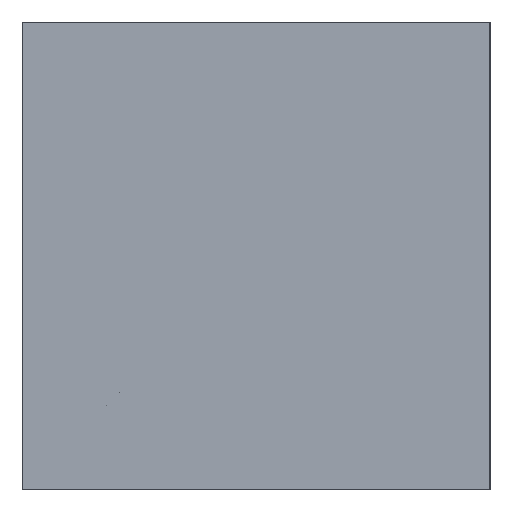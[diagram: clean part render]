
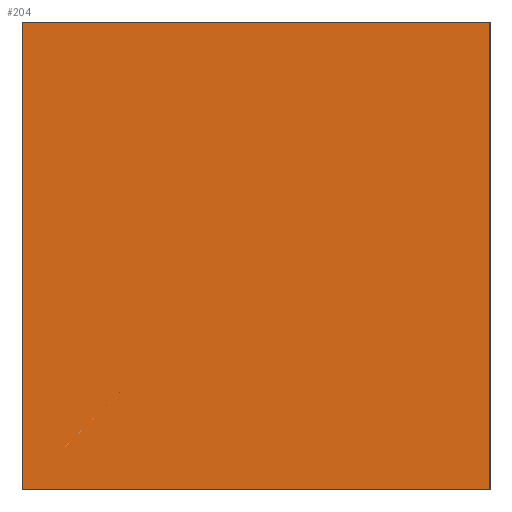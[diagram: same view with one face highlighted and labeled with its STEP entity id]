
A CAD part, left-side view. The second image highlights one B-rep face of the part: STEP entity #204.
In plain terms, the highlighted planar face has unit normal (-1, 0, 0).
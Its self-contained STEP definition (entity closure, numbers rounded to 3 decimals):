
#57=CARTESIAN_POINT('Line Origine',(-40.,30.,0.)) ;
#61=CARTESIAN_POINT('Vertex',(-40.,30.,-15.)) ;
#63=CARTESIAN_POINT('Vertex',(-40.,30.,15.)) ;
#174=CARTESIAN_POINT('Axis2P3D Location',(-40.,0.,-0.)) ;
#179=CARTESIAN_POINT('Line Origine',(-40.,15.,-15.)) ;
#183=CARTESIAN_POINT('Vertex',(-40.,0.,-15.)) ;
#186=CARTESIAN_POINT('Line Origine',(-40.,0.,0.)) ;
#190=CARTESIAN_POINT('Vertex',(-40.,0.,15.)) ;
#193=CARTESIAN_POINT('Line Origine',(-40.,15.,15.)) ;
#58=DIRECTION('Vector Direction',(0.,0.,1.)) ;
#175=DIRECTION('Axis2P3D Direction',(1.,0.,-0.)) ;
#176=DIRECTION('Axis2P3D XDirection',(-0.,0.,-1.)) ;
#180=DIRECTION('Vector Direction',(0.,1.,0.)) ;
#187=DIRECTION('Vector Direction',(0.,0.,-1.)) ;
#194=DIRECTION('Vector Direction',(0.,-1.,0.)) ;
#177=AXIS2_PLACEMENT_3D('Plane Axis2P3D',#174,#175,#176) ;
#199=ORIENTED_EDGE('',*,*,#65,.F.) ;
#200=ORIENTED_EDGE('',*,*,#185,.F.) ;
#201=ORIENTED_EDGE('',*,*,#192,.F.) ;
#202=ORIENTED_EDGE('',*,*,#197,.F.) ;
#59=VECTOR('Line Direction',#58,1.) ;
#181=VECTOR('Line Direction',#180,1.) ;
#188=VECTOR('Line Direction',#187,1.) ;
#195=VECTOR('Line Direction',#194,1.) ;
#204=ADVANCED_FACE('760-3030125',(#203),#178,.F.) ;
#65=EDGE_CURVE('',#62,#64,#60,.T.) ;
#185=EDGE_CURVE('',#184,#62,#182,.T.) ;
#192=EDGE_CURVE('',#191,#184,#189,.T.) ;
#197=EDGE_CURVE('',#64,#191,#196,.T.) ;
#198=EDGE_LOOP('',(#199,#200,#201,#202)) ;
#203=FACE_OUTER_BOUND('',#198,.T.) ;
#60=LINE('Line',#57,#59) ;
#182=LINE('Line',#179,#181) ;
#189=LINE('Line',#186,#188) ;
#196=LINE('Line',#193,#195) ;
#178=PLANE('Plane',#177) ;
#62=VERTEX_POINT('',#61) ;
#64=VERTEX_POINT('',#63) ;
#184=VERTEX_POINT('',#183) ;
#191=VERTEX_POINT('',#190) ;
